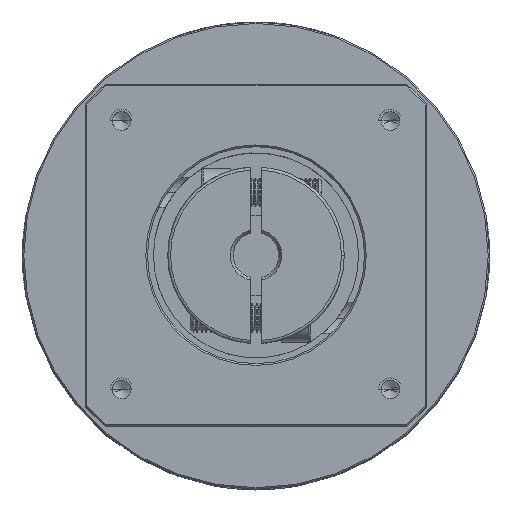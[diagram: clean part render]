
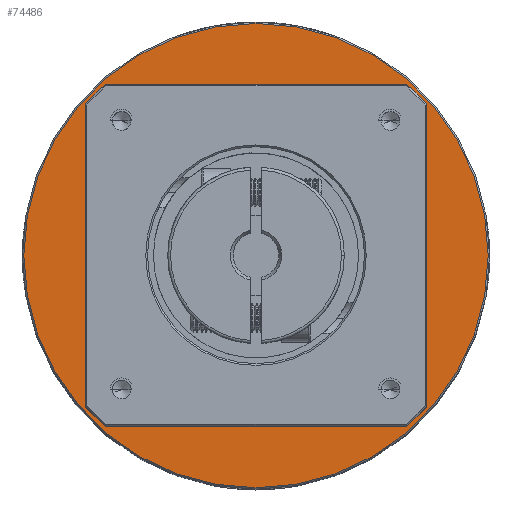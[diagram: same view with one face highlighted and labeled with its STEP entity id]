
A CAD part, top view. The second image highlights one B-rep face of the part: STEP entity #74486.
In plain terms, the highlighted planar face has unit normal (0, 0, 1).
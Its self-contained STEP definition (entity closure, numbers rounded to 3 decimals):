
#2182 = DIRECTION ( 'NONE',  ( 0., 0., -1. ) ) ;
#2473 = CARTESIAN_POINT ( 'NONE',  ( -58.531, 18.322, -38.007 ) ) ;
#8135 = VERTEX_POINT ( 'NONE', #114810 ) ;
#11708 = DIRECTION ( 'NONE',  ( -1., 0., 0. ) ) ;
#18651 = AXIS2_PLACEMENT_3D ( 'NONE', #2473, #66827, #11708 ) ;
#22955 = EDGE_CURVE ( 'NONE', #8135, #44196, #65117, .T. ) ;
#25259 = CARTESIAN_POINT ( 'NONE',  ( -88.531, 18.322, -38.007 ) ) ;
#28458 = CARTESIAN_POINT ( 'NONE',  ( -58.531, 18.322, -38.007 ) ) ;
#30373 = CIRCLE ( 'NONE', #18651, 30. ) ;
#32087 = ORIENTED_EDGE ( 'NONE', *, *, #68300, .T. ) ;
#36863 = CIRCLE ( 'NONE', #71402, 40.75 ) ;
#37678 = DIRECTION ( 'NONE',  ( -1., 0., 0. ) ) ;
#39974 = FACE_BOUND ( 'NONE', #107962, .T. ) ;
#40113 = PLANE ( 'NONE',  #73663 ) ;
#41390 = CARTESIAN_POINT ( 'NONE',  ( -58.531, 18.322, -38.007 ) ) ;
#43645 = EDGE_CURVE ( 'NONE', #115847, #74174, #30373, .T. ) ;
#43646 = AXIS2_PLACEMENT_3D ( 'NONE', #28458, #92599, #37678 ) ;
#44196 = VERTEX_POINT ( 'NONE', #110512 ) ;
#49767 = CARTESIAN_POINT ( 'NONE',  ( -58.531, 18.322, -38.007 ) ) ;
#50650 = DIRECTION ( 'NONE',  ( -1., 0., 0. ) ) ;
#57228 = CARTESIAN_POINT ( 'NONE',  ( -58.531, 18.322, -38.007 ) ) ;
#58032 = EDGE_LOOP ( 'NONE', ( #102386, #100150 ) ) ;
#59014 = DIRECTION ( 'NONE',  ( 1., 0., 0. ) ) ;
#65117 = CIRCLE ( 'NONE', #43646, 40.75 ) ;
#66525 = DIRECTION ( 'NONE',  ( -1., 0., 0. ) ) ;
#66827 = DIRECTION ( 'NONE',  ( 0., 0., -1. ) ) ;
#68300 = EDGE_CURVE ( 'NONE', #74174, #115847, #105010, .T. ) ;
#71402 = AXIS2_PLACEMENT_3D ( 'NONE', #41390, #105411, #50650 ) ;
#73663 = AXIS2_PLACEMENT_3D ( 'NONE', #49767, #113707, #59014 ) ;
#74174 = VERTEX_POINT ( 'NONE', #25259 ) ;
#74486 = ADVANCED_FACE ( 'NONE', ( #115815, #39974 ), #40113, .T. ) ;
#92599 = DIRECTION ( 'NONE',  ( 0., 0., -1. ) ) ;
#96406 = EDGE_CURVE ( 'NONE', #44196, #8135, #36863, .T. ) ;
#100150 = ORIENTED_EDGE ( 'NONE', *, *, #96406, .F. ) ;
#101147 = ORIENTED_EDGE ( 'NONE', *, *, #43645, .T. ) ;
#102386 = ORIENTED_EDGE ( 'NONE', *, *, #22955, .F. ) ;
#105010 = CIRCLE ( 'NONE', #117075, 30. ) ;
#105411 = DIRECTION ( 'NONE',  ( 0., 0., -1. ) ) ;
#107962 = EDGE_LOOP ( 'NONE', ( #32087, #101147 ) ) ;
#110390 = CARTESIAN_POINT ( 'NONE',  ( -28.531, 18.322, -38.007 ) ) ;
#110512 = CARTESIAN_POINT ( 'NONE',  ( -17.781, 18.322, -38.007 ) ) ;
#113707 = DIRECTION ( 'NONE',  ( 0., 0., 1. ) ) ;
#114810 = CARTESIAN_POINT ( 'NONE',  ( -99.281, 18.322, -38.007 ) ) ;
#115815 = FACE_OUTER_BOUND ( 'NONE', #58032, .T. ) ;
#115847 = VERTEX_POINT ( 'NONE', #110390 ) ;
#117075 = AXIS2_PLACEMENT_3D ( 'NONE', #57228, #2182, #66525 ) ;
